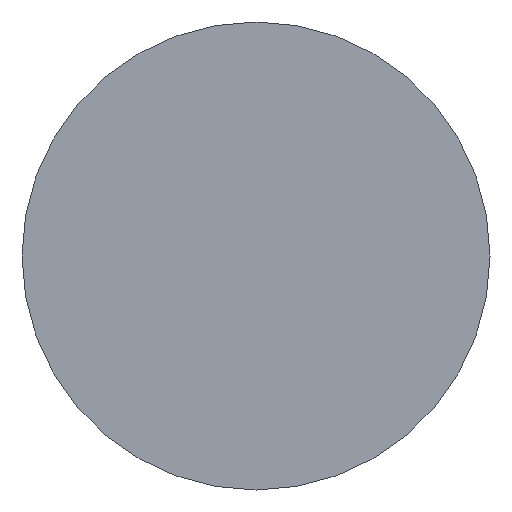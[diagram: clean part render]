
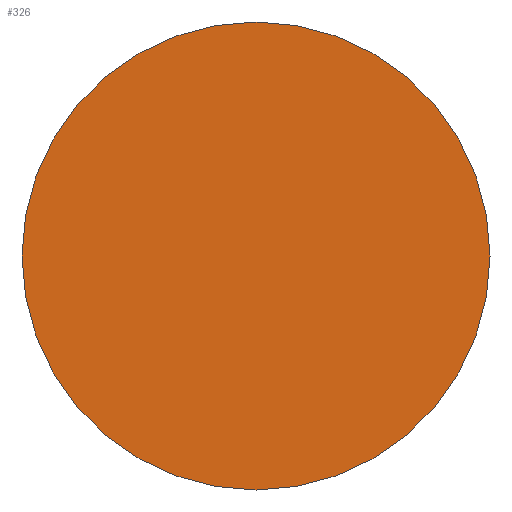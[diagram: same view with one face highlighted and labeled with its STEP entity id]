
A CAD part, left-side view. The second image highlights one B-rep face of the part: STEP entity #326.
In plain terms, the highlighted planar face has unit normal (-1, 0, 0).
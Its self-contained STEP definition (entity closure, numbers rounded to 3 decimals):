
#16=PLANE('',#395);
#33=FACE_OUTER_BOUND('',#49,.T.);
#49=EDGE_LOOP('',(#281,#282));
#106=CIRCLE('',#396,8.035);
#107=CIRCLE('',#397,8.035);
#144=VERTEX_POINT('',#618);
#145=VERTEX_POINT('',#619);
#192=EDGE_CURVE('',#144,#145,#106,.T.);
#193=EDGE_CURVE('',#145,#144,#107,.T.);
#281=ORIENTED_EDGE('',*,*,#192,.F.);
#282=ORIENTED_EDGE('',*,*,#193,.F.);
#326=ADVANCED_FACE('',(#33),#16,.T.);
#395=AXIS2_PLACEMENT_3D('',#617,#507,#508);
#396=AXIS2_PLACEMENT_3D('',#620,#509,#510);
#397=AXIS2_PLACEMENT_3D('',#621,#511,#512);
#507=DIRECTION('center_axis',(-1.,0.,0.));
#508=DIRECTION('ref_axis',(0.,0.,1.));
#509=DIRECTION('center_axis',(1.,0.,0.));
#510=DIRECTION('ref_axis',(0.,0.,-1.));
#511=DIRECTION('center_axis',(1.,0.,0.));
#512=DIRECTION('ref_axis',(0.,0.,-1.));
#617=CARTESIAN_POINT('Origin',(0.,8.035,0.));
#618=CARTESIAN_POINT('',(0.,8.035,0.));
#619=CARTESIAN_POINT('',(0.,-8.035,0.));
#620=CARTESIAN_POINT('Origin',(0.,0.,0.));
#621=CARTESIAN_POINT('Origin',(0.,0.,0.));
